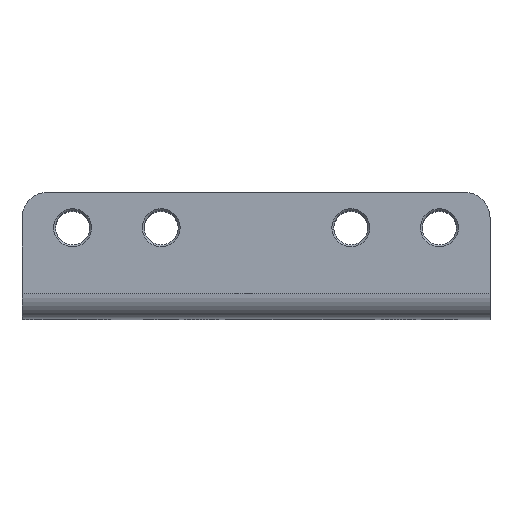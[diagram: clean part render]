
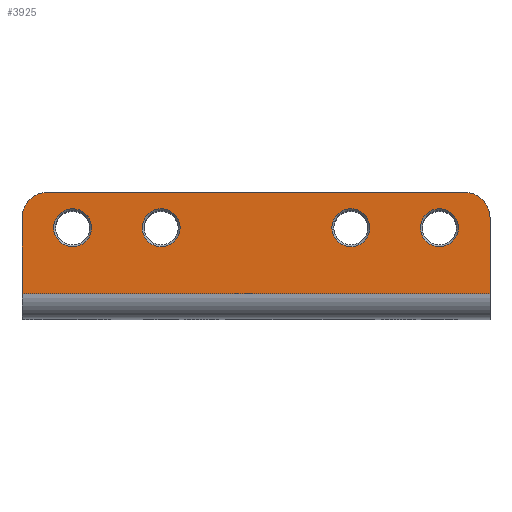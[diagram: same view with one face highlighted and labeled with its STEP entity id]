
A CAD part, top view. The second image highlights one B-rep face of the part: STEP entity #3925.
In plain terms, the highlighted planar face has unit normal (0, 0, 1).
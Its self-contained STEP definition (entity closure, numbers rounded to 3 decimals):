
#1273=DIRECTION('',(0.,-1.,0.));
#1274=VECTOR('',#1273,6.);
#1275=CARTESIAN_POINT('',(-22.,8.,19.));
#1276=LINE('',#1275,#1274);
#1285=CARTESIAN_POINT('',(4.,7.2,19.));
#1286=DIRECTION('',(0.,0.,1.));
#1287=DIRECTION('',(-1.,0.,0.));
#1288=AXIS2_PLACEMENT_3D('',#1285,#1286,#1287);
#1290=CARTESIAN_POINT('',(4.,7.2,19.));
#1291=DIRECTION('',(0.,0.,1.));
#1292=DIRECTION('',(1.,0.,0.));
#1293=AXIS2_PLACEMENT_3D('',#1290,#1291,#1292);
#1295=CARTESIAN_POINT('',(-18.,7.2,19.));
#1296=DIRECTION('',(0.,0.,1.));
#1297=DIRECTION('',(-1.,0.,0.));
#1298=AXIS2_PLACEMENT_3D('',#1295,#1296,#1297);
#1300=CARTESIAN_POINT('',(-18.,7.2,19.));
#1301=DIRECTION('',(0.,0.,1.));
#1302=DIRECTION('',(1.,0.,0.));
#1303=AXIS2_PLACEMENT_3D('',#1300,#1301,#1302);
#1305=CARTESIAN_POINT('',(11.,7.2,19.));
#1306=DIRECTION('',(0.,0.,1.));
#1307=DIRECTION('',(-1.,0.,0.));
#1308=AXIS2_PLACEMENT_3D('',#1305,#1306,#1307);
#1310=CARTESIAN_POINT('',(11.,7.2,19.));
#1311=DIRECTION('',(0.,0.,1.));
#1312=DIRECTION('',(1.,0.,0.));
#1313=AXIS2_PLACEMENT_3D('',#1310,#1311,#1312);
#1315=CARTESIAN_POINT('',(-11.,7.2,19.));
#1316=DIRECTION('',(0.,0.,1.));
#1317=DIRECTION('',(-1.,0.,0.));
#1318=AXIS2_PLACEMENT_3D('',#1315,#1316,#1317);
#1320=CARTESIAN_POINT('',(-11.,7.2,19.));
#1321=DIRECTION('',(0.,0.,1.));
#1322=DIRECTION('',(1.,0.,0.));
#1323=AXIS2_PLACEMENT_3D('',#1320,#1321,#1322);
#1325=CARTESIAN_POINT('',(13.,8.,19.));
#1326=DIRECTION('',(0.,0.,1.));
#1327=DIRECTION('',(1.,0.,0.));
#1328=AXIS2_PLACEMENT_3D('',#1325,#1326,#1327);
#1330=CARTESIAN_POINT('',(-20.,8.,19.));
#1331=DIRECTION('',(0.,0.,1.));
#1332=DIRECTION('',(0.,1.,0.));
#1333=AXIS2_PLACEMENT_3D('',#1330,#1331,#1332);
#1335=DIRECTION('',(-1.,0.,0.));
#1336=VECTOR('',#1335,33.);
#1337=CARTESIAN_POINT('',(13.,10.,19.));
#1338=LINE('',#1337,#1336);
#1505=DIRECTION('',(0.,-1.,0.));
#1506=VECTOR('',#1505,6.);
#1507=CARTESIAN_POINT('',(15.,8.,19.));
#1508=LINE('',#1507,#1506);
#1604=DIRECTION('',(-1.,0.,0.));
#1605=VECTOR('',#1604,37.);
#1606=CARTESIAN_POINT('',(15.,2.,19.));
#1607=LINE('',#1606,#1605);
#1608=CARTESIAN_POINT('',(15.,2.,19.));
#1610=VERTEX_POINT('',#1608);
#1616=CARTESIAN_POINT('',(-22.,2.,19.));
#1618=VERTEX_POINT('',#1616);
#1636=CARTESIAN_POINT('',(2.5,7.2,19.));
#1637=CARTESIAN_POINT('',(5.5,7.2,19.));
#1638=VERTEX_POINT('',#1636);
#1639=VERTEX_POINT('',#1637);
#1648=CARTESIAN_POINT('',(-19.5,7.2,19.));
#1649=CARTESIAN_POINT('',(-16.5,7.2,19.));
#1650=VERTEX_POINT('',#1648);
#1651=VERTEX_POINT('',#1649);
#1792=CARTESIAN_POINT('',(15.,8.,19.));
#1793=CARTESIAN_POINT('',(13.,10.,19.));
#1794=VERTEX_POINT('',#1792);
#1795=VERTEX_POINT('',#1793);
#1800=CARTESIAN_POINT('',(-20.,10.,19.));
#1801=CARTESIAN_POINT('',(-22.,8.,19.));
#1802=VERTEX_POINT('',#1800);
#1803=VERTEX_POINT('',#1801);
#1940=CARTESIAN_POINT('',(9.5,7.2,19.));
#1941=CARTESIAN_POINT('',(12.5,7.2,19.));
#1942=VERTEX_POINT('',#1940);
#1943=VERTEX_POINT('',#1941);
#1952=CARTESIAN_POINT('',(-12.5,7.2,19.));
#1953=CARTESIAN_POINT('',(-9.5,7.2,19.));
#1954=VERTEX_POINT('',#1952);
#1955=VERTEX_POINT('',#1953);
#3884=CARTESIAN_POINT('',(15.,10.,19.));
#3885=DIRECTION('',(0.,0.,1.));
#3886=DIRECTION('',(0.,-1.,0.));
#3887=AXIS2_PLACEMENT_3D('',#3884,#3885,#3886);
#3888=PLANE('',#3887);
#3890=ORIENTED_EDGE('',*,*,#3889,.F.);
#3892=ORIENTED_EDGE('',*,*,#3891,.T.);
#3894=ORIENTED_EDGE('',*,*,#3893,.T.);
#3895=ORIENTED_EDGE('',*,*,#3861,.F.);
#3896=ORIENTED_EDGE('',*,*,#3874,.F.);
#3898=ORIENTED_EDGE('',*,*,#3897,.F.);
#3899=EDGE_LOOP('',(#3890,#3892,#3894,#3895,#3896,#3898));
#3900=FACE_OUTER_BOUND('',#3899,.F.);
#3902=ORIENTED_EDGE('',*,*,#3901,.T.);
#3904=ORIENTED_EDGE('',*,*,#3903,.T.);
#3905=EDGE_LOOP('',(#3902,#3904));
#3906=FACE_BOUND('',#3905,.F.);
#3908=ORIENTED_EDGE('',*,*,#3907,.T.);
#3910=ORIENTED_EDGE('',*,*,#3909,.T.);
#3911=EDGE_LOOP('',(#3908,#3910));
#3912=FACE_BOUND('',#3911,.F.);
#3914=ORIENTED_EDGE('',*,*,#3913,.T.);
#3916=ORIENTED_EDGE('',*,*,#3915,.T.);
#3917=EDGE_LOOP('',(#3914,#3916));
#3918=FACE_BOUND('',#3917,.F.);
#3920=ORIENTED_EDGE('',*,*,#3919,.T.);
#3922=ORIENTED_EDGE('',*,*,#3921,.T.);
#3923=EDGE_LOOP('',(#3920,#3922));
#3924=FACE_BOUND('',#3923,.F.);
#3925=ADVANCED_FACE('',(#3900,#3906,#3912,#3918,#3924),#3888,.T.);
#1289=CIRCLE('',#1288,1.5);
#1294=CIRCLE('',#1293,1.5);
#1299=CIRCLE('',#1298,1.5);
#1304=CIRCLE('',#1303,1.5);
#1309=CIRCLE('',#1308,1.5);
#1314=CIRCLE('',#1313,1.5);
#1319=CIRCLE('',#1318,1.5);
#1324=CIRCLE('',#1323,1.5);
#1329=CIRCLE('',#1328,2.);
#1334=CIRCLE('',#1333,2.);
#3861=EDGE_CURVE('',#1803,#1618,#1276,.T.);
#3874=EDGE_CURVE('',#1802,#1803,#1334,.T.);
#3889=EDGE_CURVE('',#1794,#1795,#1329,.T.);
#3891=EDGE_CURVE('',#1794,#1610,#1508,.T.);
#3893=EDGE_CURVE('',#1610,#1618,#1607,.T.);
#3897=EDGE_CURVE('',#1795,#1802,#1338,.T.);
#3901=EDGE_CURVE('',#1638,#1639,#1289,.T.);
#3903=EDGE_CURVE('',#1639,#1638,#1294,.T.);
#3907=EDGE_CURVE('',#1650,#1651,#1299,.T.);
#3909=EDGE_CURVE('',#1651,#1650,#1304,.T.);
#3913=EDGE_CURVE('',#1942,#1943,#1309,.T.);
#3915=EDGE_CURVE('',#1943,#1942,#1314,.T.);
#3919=EDGE_CURVE('',#1954,#1955,#1319,.T.);
#3921=EDGE_CURVE('',#1955,#1954,#1324,.T.);
